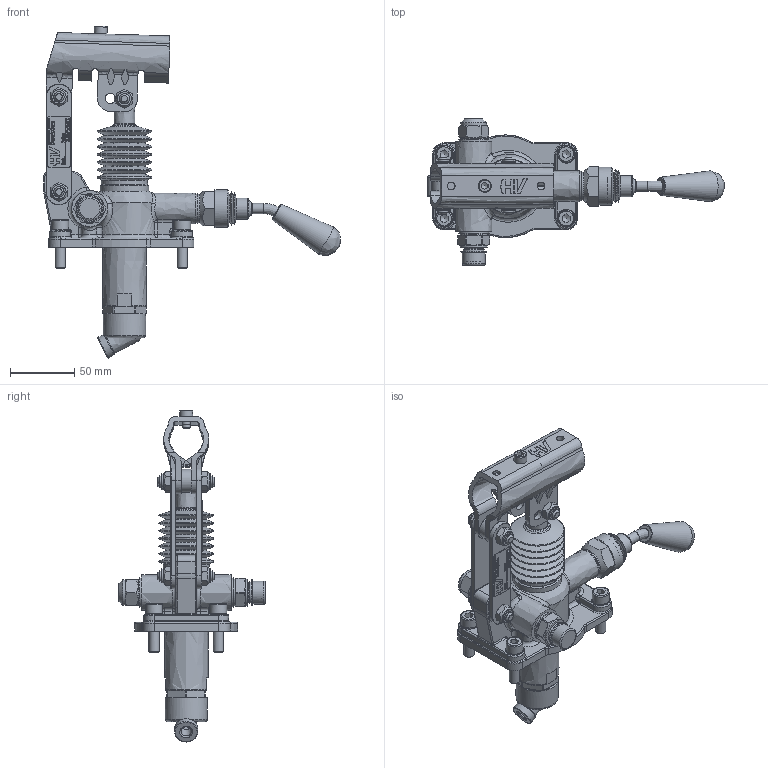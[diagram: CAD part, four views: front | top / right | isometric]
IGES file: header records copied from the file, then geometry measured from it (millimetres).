
Global section: file name: No Iges File Name specified; native system: Autodesk Inventor 2013; preprocessor: AutoDesk Inventor Iges Exporter R2013; author: christian.scardovi; date: 20240227.153259; units: millimetre
Bounding box: 231.27 x 114 x 258.54 mm (x, y, z)
Volume: 387706.2 mm3; surface area: 145770.2 mm2
Topology: 29 solids, 29 shells, 1654 faces, 4055 edges, 2547 vertices
Faces by surface type: bspline 1654
